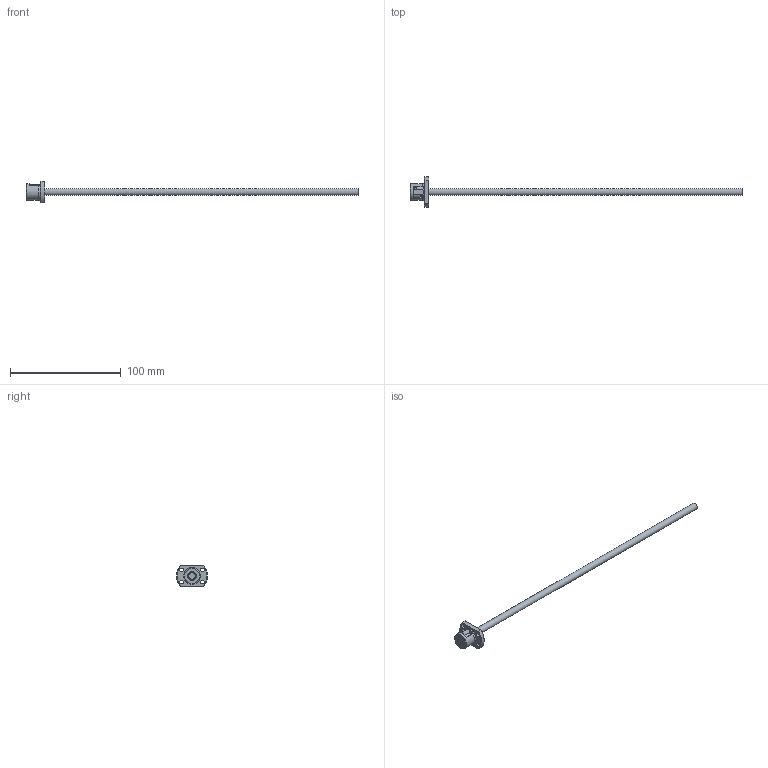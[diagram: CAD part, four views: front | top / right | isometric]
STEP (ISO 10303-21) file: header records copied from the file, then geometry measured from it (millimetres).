
FILE_DESCRIPTION( ( 'STEP AP203' ), '1' );
FILE_NAME( 'e:/temp/worker_100/temp/exporttempdir_1148_1711_CSbGe/format_0/SR0602-300R300C7(0).stp', '2021-10-19T03:43:32', ( 'License CC BY-ND 4.0' ), ( 'CADENAS' ), ' ', 'PARTsolutions', ' ' );
FILE_SCHEMA( ( 'CONFIG_CONTROL_DESIGN' ) );
Length unit declared in the file: millimetre
Products named in the file (3): SR0602-300R300C7(0); _SR0602(0)_shaft; _SR0602C7_nut
Assembly tree (2 placements, depth 2):
  SR0602-300R300C7(0)
    _SR0602(0)_shaft
    _SR0602C7_nut
Bounding box: 300 x 27.9 x 19 mm (x, y, z)
Volume: 11965.2 mm3; surface area: 8010.8 mm2
Topology: 2 solids, 2 shells, 54 faces, 133 edges, 86 vertices
Faces by surface type: plane 25, cylinder 24, cone 5
Full cylindrical faces by diameter (mm): 3.4 x4, 6 x2, 8 x2, 14.5 x1, 15 x1
Entity records: 1696 total; most frequent: CARTESIAN_POINT 349, DIRECTION 260, ORIENTED_EDGE 238, EDGE_CURVE 119, AXIS2_PLACEMENT_3D 104, VERTEX_POINT 83, EDGE_LOOP 78, FACE_OUTER_BOUND 64
